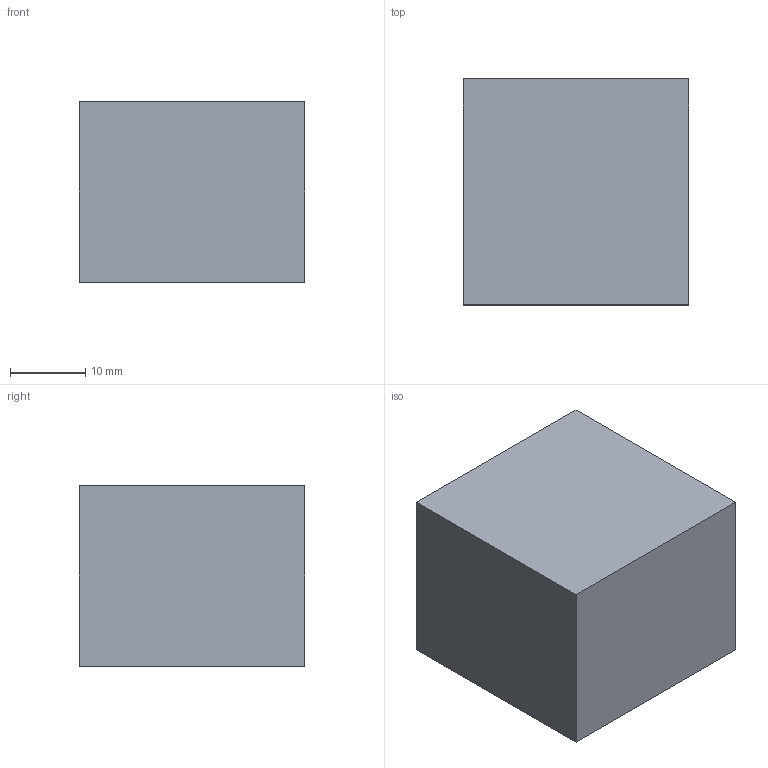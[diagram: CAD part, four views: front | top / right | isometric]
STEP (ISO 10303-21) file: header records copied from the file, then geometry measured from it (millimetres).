
FILE_DESCRIPTION(('Open CASCADE Model'),'2;1');
FILE_NAME('Open CASCADE Shape Model','2026-10-04T01:02:30',('Author'),( 'Open CASCADE'),'Open CASCADE STEP processor 8.0','Open CASCADE 8.0' ,'Unknown');
FILE_SCHEMA(('AUTOMOTIVE_DESIGN { 1 0 10303 214 1 1 1 1 }'));
Length unit declared in the file: millimetre
Products named in the file (1): Open CASCADE STEP translator 8.0 205
Bounding box: 30 x 30 x 24 mm (x, y, z)
Volume: 21600 mm3; surface area: 4680 mm2
Topology: 1 solids, 1 shells, 6 faces, 12 edges, 8 vertices
Faces by surface type: plane 6
Entity records: 322 total; most frequent: CARTESIAN_POINT 51, DIRECTION 50, LINE 36, VECTOR 36, ORIENTED_EDGE 24, PCURVE 24, DEFINITIONAL_REPRESENTATION 24, EDGE_CURVE 12
